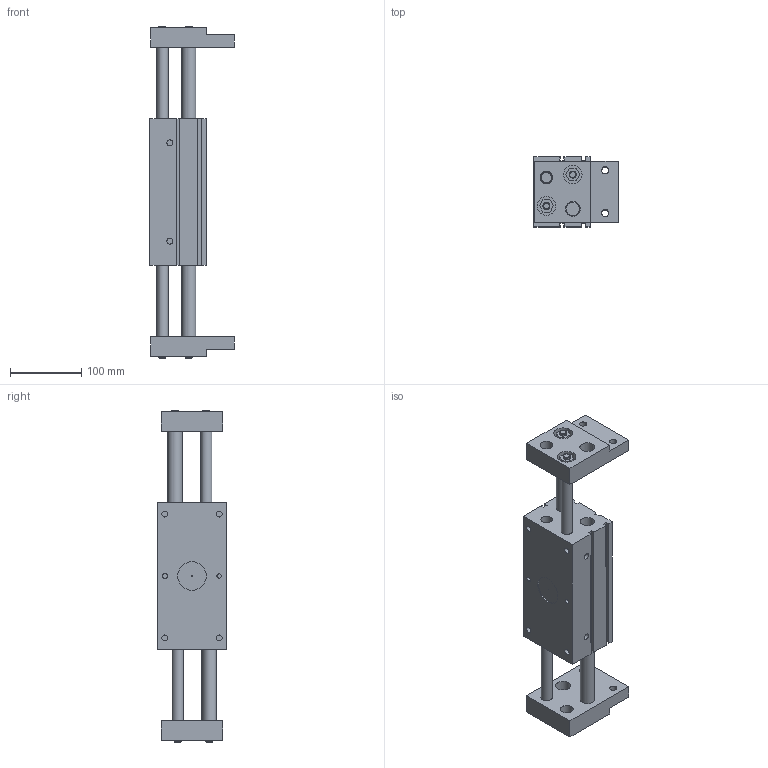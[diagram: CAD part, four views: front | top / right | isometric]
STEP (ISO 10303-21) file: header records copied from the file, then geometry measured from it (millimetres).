
FILE_DESCRIPTION((''),'2;1');
FILE_NAME('I:\Area Tecnica\Disegni\VARIE-3D\Componenti\6311\LIBRERIA AIRO Ø32-40\N-6311_#_D_#\631140D1.stp','2011-06-14T10:46:32',('airolcr1'),(''),'Autodesk Inventor 2011','Autodesk Inventor 2011','');
FILE_SCHEMA(('AUTOMOTIVE_DESIGN { 1 0 10303 214 1 1 1 1 }'));
Length unit declared in the file: millimetre
Products named in the file (4): 631140D1; N-CORPO Ø40 D1; N-DITO Ø40 D1; 1-N-DITO Ø40 D1
Assembly tree (3 placements, depth 2):
  631140D1
    N-CORPO Ø40 D1
    N-DITO Ø40 D1
    1-N-DITO Ø40 D1
Bounding box: 118 x 98 x 466 mm (x, y, z)
Volume: 2062773.1 mm3; surface area: 285598.2 mm2
Topology: 3 solids, 3 shells, 159 faces, 378 edges, 250 vertices
Faces by surface type: plane 113, cylinder 38, cone 8
Full cylindrical faces by diameter (mm): 0.01 x2, 6 x1, 8.376 x6, 8.566 x2, 10 x4, 10.106 x4, 16 x4, 18 x2, 20 x4, 21 x2, 26 x4, 40 x1
Entity records: 4636 total; most frequent: DIRECTION 744, CARTESIAN_POINT 736, ORIENTED_EDGE 656, EDGE_CURVE 328, EDGE_LOOP 254, AXIS2_PLACEMENT_3D 250, VECTOR 244, LINE 244
